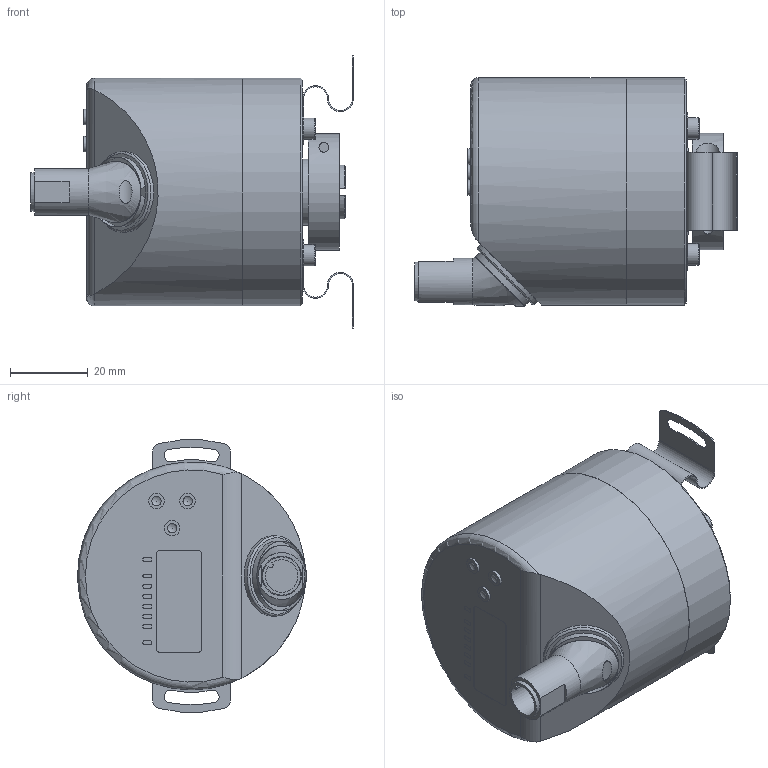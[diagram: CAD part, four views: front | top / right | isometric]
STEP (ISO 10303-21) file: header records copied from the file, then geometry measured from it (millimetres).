
FILE_DESCRIPTION( ( 'STEP AP203' ), ' ' );
FILE_NAME( 'p:/temp/worker_1349/4632_1500/app_44_02016100610522810327051192d056f_000000_00_00_000000/format_0/ROP521.stp', '2016-10-06T08:52:29', ( '' ), ( '' ), ' ', 'PARTsolutions', ' ' );
FILE_SCHEMA( ( 'CONFIG_CONTROL_DESIGN' ) );
Length unit declared in the file: millimetre
Products named in the file (3): ROP521; _ROP521_part1; _ROP521_part2
Assembly tree (2 placements, depth 2):
  ROP521
    _ROP521_part1
    _ROP521_part2
Bounding box: 83.01 x 58.84 x 69.97 mm (x, y, z)
Volume: 147333.1 mm3; surface area: 23535.6 mm2
Topology: 2 solids, 2 shells, 276 faces, 696 edges, 460 vertices
Faces by surface type: plane 145, cylinder 106, cone 12, torus 8, sphere 3, bspline 2
Full cylindrical faces by diameter (mm): 2.5 x2, 4 x3, 5.5 x5, 6.1 x1, 12 x2, 17 x1, 18 x2, 20.7 x1, 23 x1, 31.4 x1, 35 x1, 58.5 x1, 58.6 x1
Entity records: 8731 total; most frequent: CARTESIAN_POINT 2042, DIRECTION 1404, ORIENTED_EDGE 1290, EDGE_CURVE 645, AXIS2_PLACEMENT_3D 522, VERTEX_POINT 447, LINE 360, VECTOR 360
